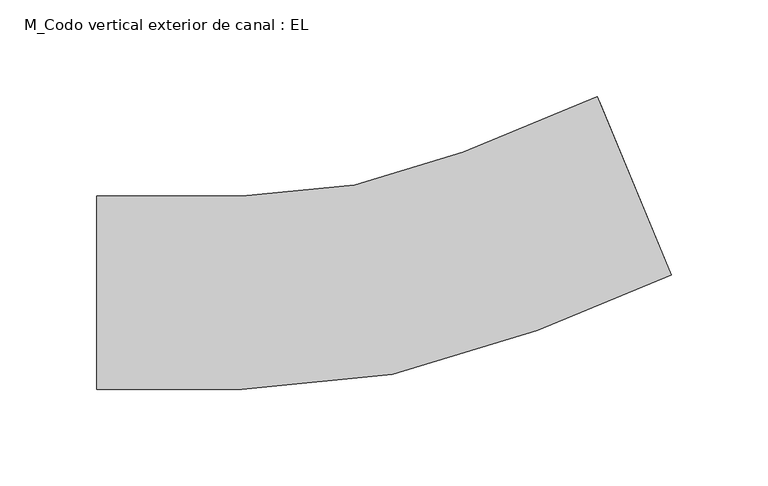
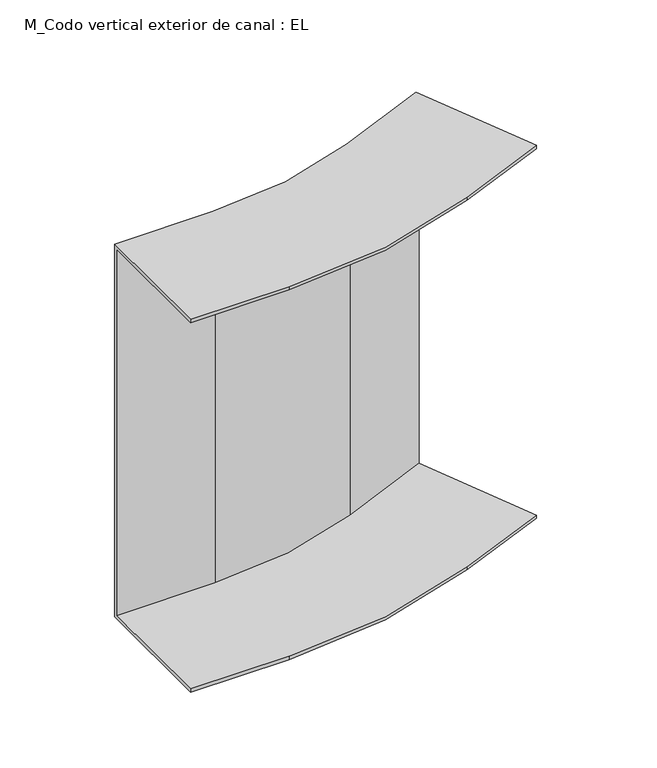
"""IFC4 building model written with IfcOpenShell, lengths in millimetres: cable carrier fitting geometry, M_Codo vertical exterior de canal : EL."""

from ifc_helpers import new_model, si_unit, frame, origin, place, context, project, spatial, polyline, circle_curve, source, transform, mapped, element, save
from ifc_brep_helpers import plane_surface, cylinder_surface, revolved_surface, advanced_brep


def m_codo_vertical_exterior_de_canal_el_547dc688(model_context):
    return source(origin(), model_context, "Body", "AdvancedBrep", [
        advanced_brep(
        [(-144.6193286, -50.0, 150.0), (-144.6193286, 50.0, 150.0), (-144.6193286, 50.0, -150.0), (-144.6193286, -50.0, -150.0), (-144.6193286, -50.0, -147.46), (-144.6193286, 47.46, -147.46), (-144.6193286, 47.46, 147.46), (-144.6193286, -50.0, 147.46), (152.7450093, 9.1494444, 150.0), (152.7450093, 9.1494444, 147.46), (115.448682, 99.1907437, 147.46), (115.448682, 99.1907437, -147.46), (152.7450093, 9.1494444, -147.46), (152.7450093, 9.1494444, -150.0), (114.4766661, 101.5373977, -150.0), (114.4766661, 101.5373977, 150.0), (-69.6193286, -50.0, 150.0), (83.4540444, -19.551813, 150.0), (45.1857011, 72.8361402, 150.0), (-69.6193286, 50.0, 150.0), (-69.6193286, 50.0, -150.0), (45.1857011, 72.8361402, -150.0), (83.4540444, -19.551813, -150.0), (-69.6193286, -50.0, -150.0), (-69.6193286, -50.0, -147.46), (83.4540444, -19.551813, -147.46), (46.157717, 70.4894862, -147.46), (-69.6193286, 47.46, -147.46), (-69.6193286, 47.46, 147.46), (46.157717, 70.4894862, 147.46), (83.4540444, -19.551813, 147.46), (-69.6193286, -50.0, 147.46)],
        [
            (0, 1),
            (1, 2),
            (2, 3),
            (3, 4),
            (4, 5),
            (5, 6),
            (6, 7),
            (7, 0),
            (8, 9),
            (9, 10),
            (10, 11),
            (11, 12),
            (12, 13),
            (13, 14),
            (14, 15),
            (15, 8),
            (0, 16),
            (16, 17, circle_curve(frame((-69.6193286, 350.0, 150.0), z_axis=(0.0, 0.0, 1.0), x_axis=(0.0, -1.0, 0.0)), 400.0)),
            (17, 8),
            (15, 18),
            (18, 19, circle_curve(frame((-69.6193286, 350.0, 150.0), z_axis=(0.0, 0.0, -1.0), x_axis=(0.0, -1.0, 0.0)), 300.0)),
            (19, 1),
            (19, 20),
            (20, 2),
            (20, 21, circle_curve(frame((-69.6193286, 350.0, -150.0), z_axis=(0.0, 0.0, 1.0), x_axis=(0.0, -1.0, 0.0)), 300.0)),
            (21, 14),
            (13, 22),
            (22, 23, circle_curve(frame((-69.6193286, 350.0, -150.0), z_axis=(0.0, 0.0, -1.0), x_axis=(0.0, -1.0, 0.0)), 400.0)),
            (23, 3),
            (23, 24),
            (24, 4),
            (24, 25, circle_curve(frame((-69.6193286, 350.0, -147.46), z_axis=(0.0, 0.0, 1.0), x_axis=(0.0, -1.0, 0.0)), 400.0)),
            (25, 12),
            (11, 26),
            (26, 27, circle_curve(frame((-69.6193286, 350.0, -147.46), z_axis=(0.0, 0.0, -1.0), x_axis=(0.0, -1.0, 0.0)), 302.54)),
            (27, 5),
            (27, 28),
            (28, 6),
            (28, 29, circle_curve(frame((-69.6193286, 350.0, 147.46), z_axis=(0.0, 0.0, 1.0), x_axis=(0.0, -1.0, 0.0)), 302.54)),
            (29, 10),
            (9, 30),
            (30, 31, circle_curve(frame((-69.6193286, 350.0, 147.46), z_axis=(0.0, 0.0, -1.0), x_axis=(0.0, -1.0, 0.0)), 400.0)),
            (31, 7),
            (31, 16),
            (18, 21),
            (22, 25),
            (26, 29),
            (30, 17),
        ],
        [
            plane_surface(frame((-144.6193286, 0.0, 0.0), z_axis=(-1.0, 0.0, 0.0), x_axis=(0.0, 0.0, 1.0))),
            plane_surface(frame((133.6108377, 55.343421, 0.0), z_axis=(0.9238795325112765, 0.3826834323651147, 0.0), x_axis=(0.0, 0.0, 1.0))),
            plane_surface(frame((-144.6193286, -50.0, 150.0), z_axis=(0.0, 0.0, 1.0), x_axis=(1.0, 0.0, 0.0))),
            plane_surface(frame((-144.6193286, 50.0, 150.0), z_axis=(0.0, 1.0, 0.0), x_axis=(1.0, 0.0, 0.0))),
            plane_surface(frame((-144.6193286, 50.0, -150.0), z_axis=(0.0, 0.0, -1.0), x_axis=(1.0, 0.0, 0.0))),
            plane_surface(frame((-144.6193286, -50.0, -150.0), z_axis=(0.0, -1.0, 0.0), x_axis=(1.0, 0.0, 0.0))),
            plane_surface(frame((-144.6193286, -50.0, -147.46), z_axis=(0.0, 0.0, 1.0), x_axis=(1.0, 0.0, 0.0))),
            plane_surface(frame((-144.6193286, 47.46, -147.46), z_axis=(0.0, -1.0, 0.0), x_axis=(1.0, 0.0, 0.0))),
            plane_surface(frame((-144.6193286, 47.46, 147.46), z_axis=(0.0, 0.0, -1.0), x_axis=(1.0, 0.0, 0.0))),
            plane_surface(frame((-144.6193286, -50.0, 147.46), z_axis=(0.0, -1.0, 0.0), x_axis=(1.0, 0.0, 0.0))),
            revolved_surface(polyline([(-69.6193286, 50.0, 150.0), (-69.6193286, 50.0, -150.0)]), (-69.6193286, 350.0, 0.0), (0.0, 0.0, 1.0)),
            cylinder_surface(frame((-69.6193286, 350.0, 0.0), z_axis=(0.0, 0.0, 1.0), x_axis=(0.0, -1.0, 0.0)), 400.0),
            cylinder_surface(frame((-69.6193286, 350.0, 0.0), z_axis=(0.0, 0.0, 1.0), x_axis=(0.0, -1.0, 0.0)), 302.54),
            plane_surface(frame((45.1857011, 72.8361402, 150.0), z_axis=(-0.3826834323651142, 0.9238795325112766, 0.0), x_axis=(0.9238795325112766, 0.3826834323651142, 0.0))),
            plane_surface(frame((83.4540444, -19.551813, -150.0), z_axis=(0.38268343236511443, -0.9238795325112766, 0.0), x_axis=(0.9238795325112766, 0.38268343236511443, 0.0))),
            plane_surface(frame((46.157717, 70.4894862, -147.46), z_axis=(0.38268343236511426, -0.9238795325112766, 0.0), x_axis=(0.9238795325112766, 0.38268343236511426, 0.0))),
            plane_surface(frame((83.4540444, -19.551813, 147.46), z_axis=(0.38268343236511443, -0.9238795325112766, 0.0), x_axis=(0.9238795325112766, 0.38268343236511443, 0.0))),
        ],
        [
            (0, [[1, 2, 3, 4, 5, 6, 7, 8]]),
            (1, [[9, 10, 11, 12, 13, 14, 15, 16]]),
            (2, [[-1, 17, 18, 19, -16, 20, 21, 22]]),
            (3, [[-2, -22, 23, 24]]),
            (4, [[-3, -24, 25, 26, -14, 27, 28, 29]]),
            (5, [[-4, -29, 30, 31]]),
            (6, [[-5, -31, 32, 33, -12, 34, 35, 36]]),
            (7, [[-6, -36, 37, 38]]),
            (8, [[-7, -38, 39, 40, -10, 41, 42, 43]]),
            (9, [[-8, -43, 44, -17]]),
            (10, [[-25, -23, -21, 45]]),
            (11, [[-32, -30, -28, 46]]),
            (12, [[-39, -37, -35, 47]]),
            (11, [[-18, -44, -42, 48]]),
            (13, [[-45, -20, -15, -26]]),
            (14, [[-46, -27, -13, -33]]),
            (15, [[-47, -34, -11, -40]]),
            (16, [[-48, -41, -9, -19]]),
        ],
    ),
    ])


if __name__ == "__main__":
    model = new_model("IFC4")
    model_context = context("Model", 3, world=origin())
    ifc_project = project(units=[si_unit("LENGTHUNIT", "METRE", prefix="MILLI")], contexts=[model_context])
    site = spatial("IfcSite", under=ifc_project)
    building = spatial("IfcBuilding", under=site)
    placement = place(None, origin())
    m_codo_vertical_exterior_de_canal_el_shape = m_codo_vertical_exterior_de_canal_el_547dc688(model_context)
    element("IfcCableCarrierFitting", 1, ObjectType="M_Codo vertical exterior de canal : EL", at=placement, inside=building, context=model_context, shape_type="MappedRepresentation", body=[
        mapped(m_codo_vertical_exterior_de_canal_el_shape, transform((0.0, 0.0, 0.0), x_axis=(1.0, 0.0, 0.0), y_axis=(0.0, 1.0, 0.0), z_axis=(0.0, 0.0, 1.0))),
    ])
    save(model, "model.ifc")
